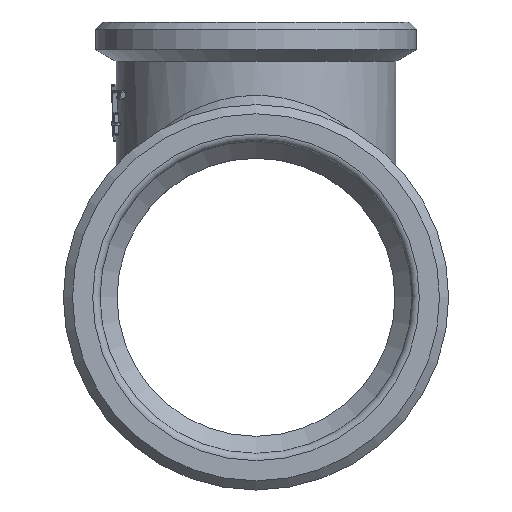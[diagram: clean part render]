
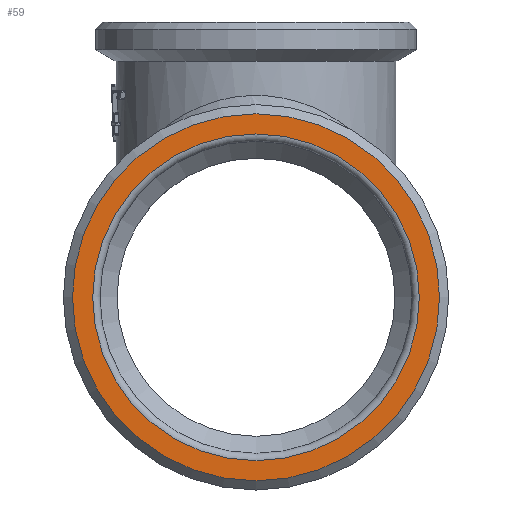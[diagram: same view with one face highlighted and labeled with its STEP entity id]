
A CAD part, front view. The second image highlights one B-rep face of the part: STEP entity #59.
In plain terms, the highlighted planar face has unit normal (0, -1, 0).
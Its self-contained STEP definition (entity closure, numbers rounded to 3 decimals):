
#59=ADVANCED_FACE('',(#428,#430),#432,.F.);
#428=FACE_BOUND('',#429,.T.);
#429=EDGE_LOOP('',(#2386));
#430=FACE_BOUND('',#431,.T.);
#431=EDGE_LOOP('',(#2387));
#432=PLANE('',#433);
#433=AXIS2_PLACEMENT_3D('',#434,#435,#436);
#434=CARTESIAN_POINT('',(0.,-30.75,0.));
#435=DIRECTION('',(0.,1.,0.));
#436=DIRECTION('',(-1.,0.,0.));
#2386=ORIENTED_EDGE('',*,*,#3986,.T.);
#2387=ORIENTED_EDGE('',*,*,#3877,.T.);
#3877=EDGE_CURVE('',#4517,#4517,#4518,.F.);
#3986=EDGE_CURVE('',#4735,#4735,#4736,.T.);
#4517=VERTEX_POINT('',#5754);
#4518=CIRCLE('',#5755,17.8);
#4735=VERTEX_POINT('',#6886);
#4736=CIRCLE('',#6887,20.);
#5754=CARTESIAN_POINT('',(17.8,-30.75,0.));
#5755=AXIS2_PLACEMENT_3D('',#5756,#5757,#5758);
#5756=CARTESIAN_POINT('',(0.,-30.75,0.));
#5757=DIRECTION('',(0.,-1.,0.));
#5758=DIRECTION('',(1.,0.,0.));
#6886=CARTESIAN_POINT('',(20.,-30.75,0.));
#6887=AXIS2_PLACEMENT_3D('',#6888,#6889,#6890);
#6888=CARTESIAN_POINT('',(0.,-30.75,0.));
#6889=DIRECTION('',(0.,-1.,0.));
#6890=DIRECTION('',(1.,0.,0.));
